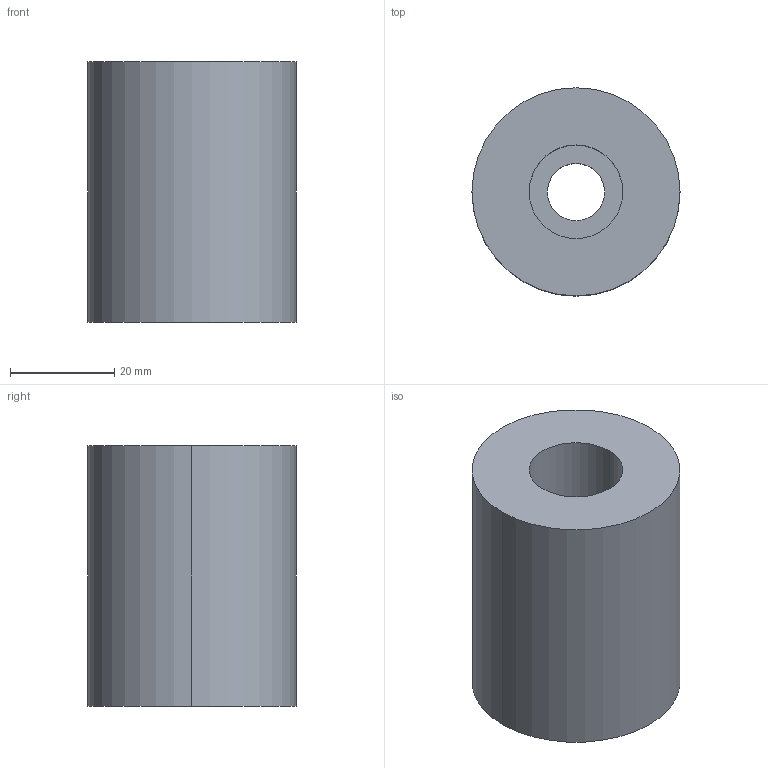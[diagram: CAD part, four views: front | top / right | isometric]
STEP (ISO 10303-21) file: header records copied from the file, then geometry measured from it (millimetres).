
FILE_DESCRIPTION(/* description */ (''),/* implementation_level */ '2;1');
FILE_NAME(/* name */ '3d_aznx40-50-m10-20_03262_r00.stp',/* time_stamp */ '2011-01-10T14:17:33+09:00',/* author */ ('MISUMI'),/* organization */ (''),/* preprocessor_version */ 'ST-DEVELOPER v11',/* originating_system */ 'UGS - NX 5.0',/* authorisation */ '');
FILE_SCHEMA (('CONFIG_CONTROL_DESIGN'));
Length unit declared in the file: millimetre
Products named in the file (1): 3d_aznx40-50-m10-20_03262_r00
Bounding box: 40 x 40 x 50 mm (x, y, z)
Volume: 53297.1 mm3; surface area: 10994 mm2
Topology: 1 solids, 1 shells, 9 faces, 18 edges, 12 vertices
Faces by surface type: cylinder 6, plane 3
Entity records: 334 total; most frequent: DIRECTION 50, CARTESIAN_POINT 40, ORIENTED_EDGE 36, AXIS2_PLACEMENT_3D 22, EDGE_CURVE 18, EDGE_LOOP 12, VERTEX_POINT 12, CIRCLE 12
